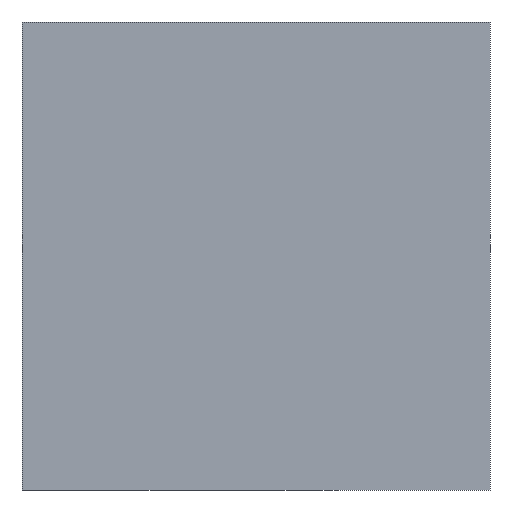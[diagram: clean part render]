
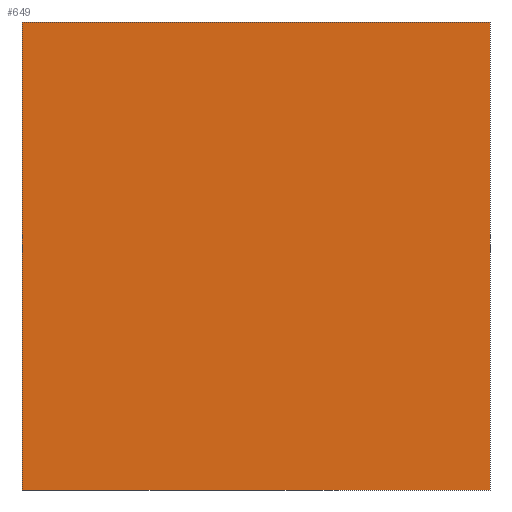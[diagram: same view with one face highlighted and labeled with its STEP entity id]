
A CAD part, left-side view. The second image highlights one B-rep face of the part: STEP entity #649.
In plain terms, the highlighted planar face has unit normal (-1, 0, 0).
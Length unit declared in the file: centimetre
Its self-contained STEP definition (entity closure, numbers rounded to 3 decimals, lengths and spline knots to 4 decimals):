
#3 = CARTESIAN_POINT ( 'NONE',  ( 0., 1000., 1000. ) ) ;
#9 = FACE_OUTER_BOUND ( 'NONE', #873, .T. ) ;
#11 = DIRECTION ( 'NONE',  ( 0., -1., 0. ) ) ;
#18 = EDGE_CURVE ( 'NONE', #563, #137, #556, .T. ) ;
#61 = DIRECTION ( 'NONE',  ( 0., 0., -1. ) ) ;
#74 = DIRECTION ( 'NONE',  ( 1., 0., 0. ) ) ;
#127 = EDGE_CURVE ( 'NONE', #280, #337, #497, .T. ) ;
#129 = VECTOR ( 'NONE', #509, 100. ) ;
#137 = VERTEX_POINT ( 'NONE', #654 ) ;
#140 = LINE ( 'NONE', #824, #384 ) ;
#163 = DIRECTION ( 'NONE',  ( 0., 0., -1. ) ) ;
#226 = CARTESIAN_POINT ( 'NONE',  ( 0., 1000., 1000. ) ) ;
#235 = EDGE_CURVE ( 'NONE', #337, #137, #140, .T. ) ;
#240 = VECTOR ( 'NONE', #11, 100. ) ;
#275 = ORIENTED_EDGE ( 'NONE', *, *, #127, .F. ) ;
#280 = VERTEX_POINT ( 'NONE', #3 ) ;
#317 = AXIS2_PLACEMENT_3D ( 'NONE', #539, #74, #61 ) ;
#337 = VERTEX_POINT ( 'NONE', #704 ) ;
#384 = VECTOR ( 'NONE', #163, 100. ) ;
#434 = LINE ( 'NONE', #633, #662 ) ;
#497 = LINE ( 'NONE', #226, #240 ) ;
#500 = EDGE_CURVE ( 'NONE', #280, #563, #434, .T. ) ;
#509 = DIRECTION ( 'NONE',  ( 0., -1., 0. ) ) ;
#539 = CARTESIAN_POINT ( 'NONE',  ( 0., 1000., 1000. ) ) ;
#556 = LINE ( 'NONE', #831, #129 ) ;
#563 = VERTEX_POINT ( 'NONE', #673 ) ;
#633 = CARTESIAN_POINT ( 'NONE',  ( 0., 1000., 1000. ) ) ;
#649 = ADVANCED_FACE ( 'NONE', ( #9 ), #762, .F. ) ;
#654 = CARTESIAN_POINT ( 'NONE',  ( 0., 0., 0. ) ) ;
#662 = VECTOR ( 'NONE', #870, 100. ) ;
#673 = CARTESIAN_POINT ( 'NONE',  ( 0., 1000., 0. ) ) ;
#704 = CARTESIAN_POINT ( 'NONE',  ( 0., 0., 1000. ) ) ;
#761 = ORIENTED_EDGE ( 'NONE', *, *, #18, .T. ) ;
#762 = PLANE ( 'NONE',  #317 ) ;
#819 = ORIENTED_EDGE ( 'NONE', *, *, #500, .T. ) ;
#824 = CARTESIAN_POINT ( 'NONE',  ( 0., 0., 1000. ) ) ;
#831 = CARTESIAN_POINT ( 'NONE',  ( 0., 1000., 0. ) ) ;
#835 = ORIENTED_EDGE ( 'NONE', *, *, #235, .F. ) ;
#870 = DIRECTION ( 'NONE',  ( 0., 0., -1. ) ) ;
#873 = EDGE_LOOP ( 'NONE', ( #761, #835, #275, #819 ) ) ;
